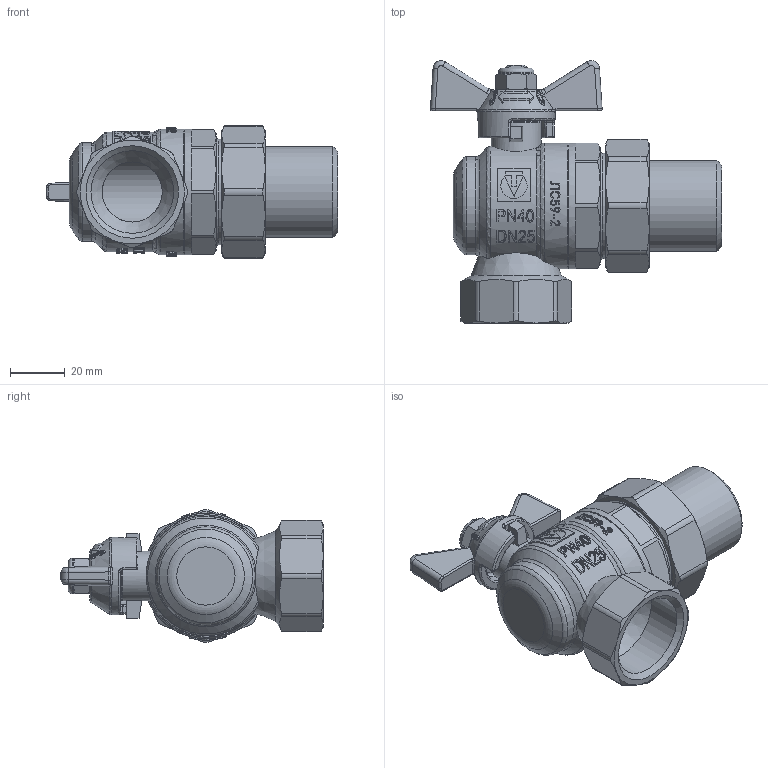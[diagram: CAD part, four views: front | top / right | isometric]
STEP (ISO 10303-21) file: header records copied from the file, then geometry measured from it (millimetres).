
FILE_DESCRIPTION(('STEP AP203'), '1');
FILE_NAME('VT.228S.N.06', '', ('UNSPECIFIED'), ('UNSPECIFIED'), 'C3D Converter', 'C3D Toolkit', '');
FILE_SCHEMA(('CONFIG_CONTROL_DESIGN'));
Length unit declared in the file: millimetre
Products named in the file (1): ВР.491816.020.000 СБ
Bounding box: 106.71 x 96.2 x 48.75 mm (x, y, z)
Volume: 96329.7 mm3; surface area: 37027.3 mm2
Topology: 1 solids, 1 shells, 1933 faces, 5444 edges, 3574 vertices
Faces by surface type: plane 1544, cylinder 122, extrusion 118, cone 82, bspline 40, torus 27
Full cylindrical faces by diameter (mm): 9.5 x1, 12.1 x1, 13 x1, 14 x1, 18.3 x1, 22 x1, 25 x2, 28.5 x1, 30.292 x1, 31.8 x1, 33.249 x1, 34 x1, 36 x1, 38.6 x1, 46 x2
Entity records: 70175 total; most frequent: CARTESIAN_POINT 28243, ORIENTED_EDGE 10772, DIRECTION 6667, EDGE_CURVE 5386, VERTEX_POINT 3572, AXIS2_PLACEMENT_3D 2254, VECTOR 2159, EDGE_LOOP 2050
